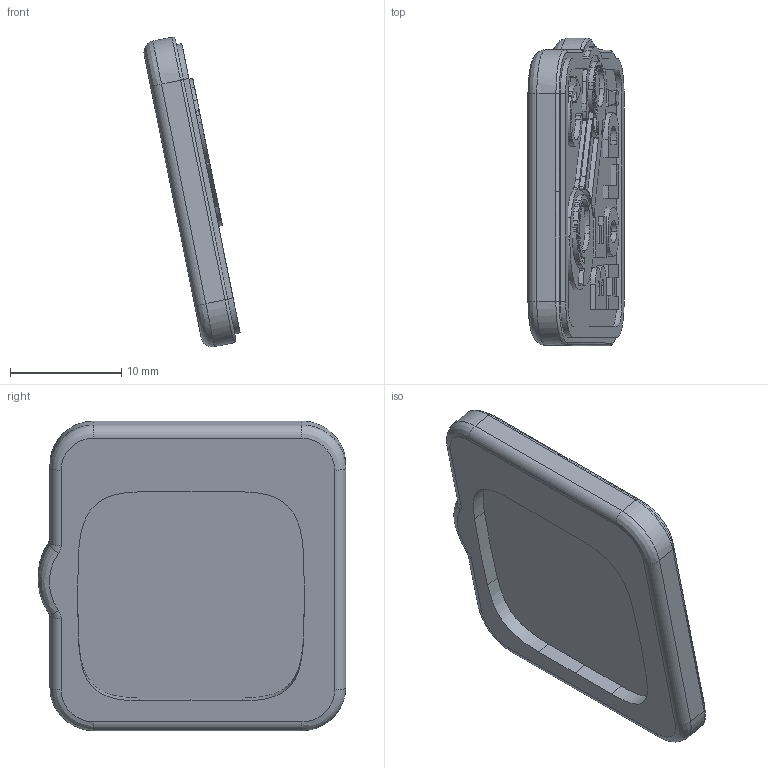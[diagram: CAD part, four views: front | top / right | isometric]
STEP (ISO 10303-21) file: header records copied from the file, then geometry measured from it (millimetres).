
FILE_DESCRIPTION(('HOOPS Exchange Step'),'2;1');
FILE_NAME('C:\Users\AaronGould\Desktop\STEP FILES\SLATLETS\SLT_BEHOLD_040425.stp','2025-04-06T18:37:59-04:00',('AaronGould'),('Unknown organisation'),'HOOPS Exchange 2024.2','HOOPS Exchange','Unknown authorisation');
FILE_SCHEMA( ('AP203_CONFIGURATION_CONTROLLED_3D_DESIGN_OF_MECHANICAL_PARTS_AND_ASSEMBLIES_MIM_LF') );
Length unit declared in the file: millimetre
Products named in the file (2): 0; root
Assembly tree (1 placements, depth 2):
  root
    0
Bounding box: 8.64 x 27.62 x 27.82 mm (x, y, z)
Volume: 1892.5 mm3; surface area: 2086.1 mm2
Topology: 1 solids, 1 shells, 407 faces, 1144 edges, 759 vertices
Faces by surface type: bspline 273, plane 109, cylinder 25
Entity records: 24593 total; most frequent: CARTESIAN_POINT 16649, ORIENTED_EDGE 2280, EDGE_CURVE 1140, B_SPLINE_CURVE_WITH_KNOTS 922, VERTEX_POINT 759, DIRECTION 558, EDGE_LOOP 431, FACE_BOUND 431
